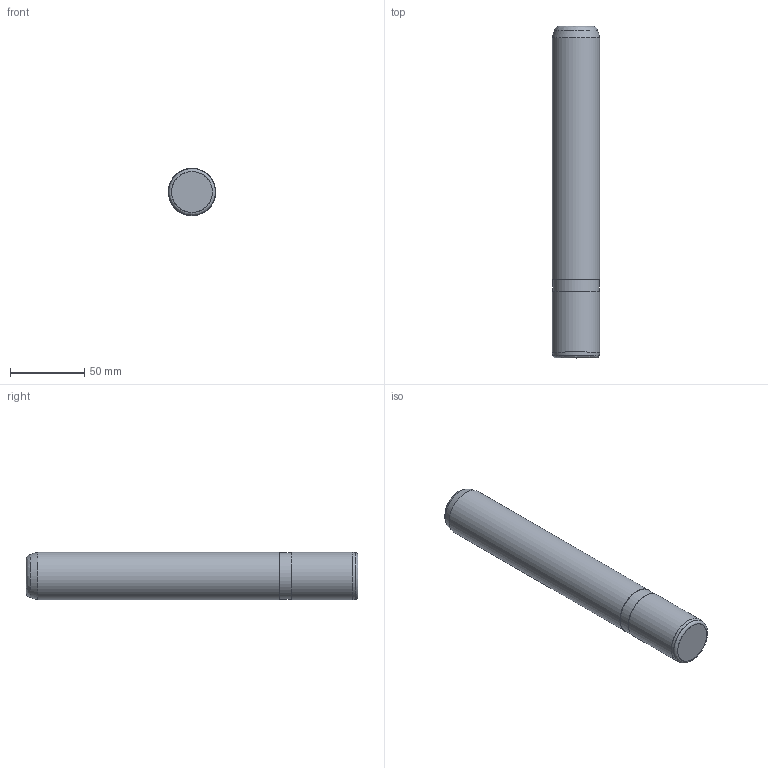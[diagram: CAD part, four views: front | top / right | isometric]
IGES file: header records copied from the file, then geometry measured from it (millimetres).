
Start section: Missler Software BP 521, 31674 Labege Cedex, France Tel   : +33 (0)5 61 00 03 00 Fax   : +33 (0)5 61 00 03 03 Email : sup.topsolid@topsolid.com
Global section: file name: D:\Cuma\26 04 2010\D15g\D15_32224.igs; native system: TopSolid v605250 Missler Software; preprocessor: IGES preprocessor v100000; date: 030225.171720; units: millimetre
Bounding box: 32 x 224 x 32 mm (x, y, z)
Surface area: 23788.7 mm2 (no closed solid volume)
Topology: 0 solids, 0 shells, 11 faces, 216 edges, 210 vertices
Faces by surface type: bspline 11
